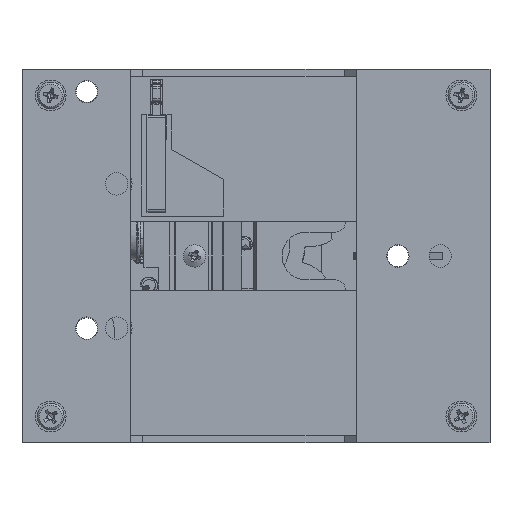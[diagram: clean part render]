
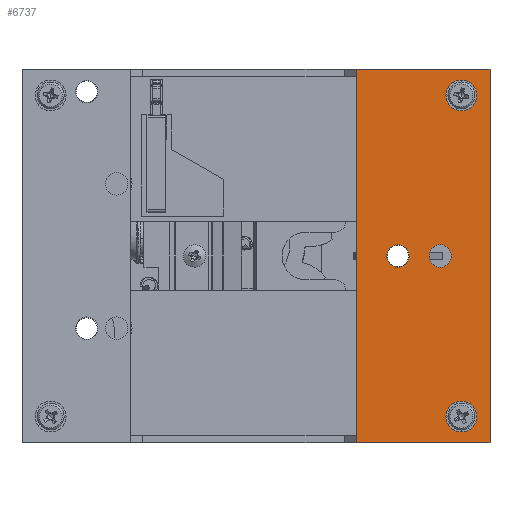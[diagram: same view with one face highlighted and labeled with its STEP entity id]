
A CAD part, front view. The second image highlights one B-rep face of the part: STEP entity #6737.
In plain terms, the highlighted planar face has unit normal (0, -1, 0).
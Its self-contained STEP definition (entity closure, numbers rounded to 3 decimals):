
#753 = FACE_BOUND ( 'NONE', #38181, .T. ) ;
#754 = FACE_OUTER_BOUND ( 'NONE', #38189, .T. ) ;
#755 = FACE_BOUND ( 'NONE', #38196, .T. ) ;
#756 = FACE_BOUND ( 'NONE', #38177, .T. ) ;
#758 = FACE_BOUND ( 'NONE', #38183, .T. ) ;
#4372 = CARTESIAN_POINT ( 'NONE',  ( -47., -25.5, 37.5 ) ) ;
#4373 = DIRECTION ( 'NONE',  ( 1., 0., 0. ) ) ;
#4384 = CARTESIAN_POINT ( 'NONE',  ( 20.2, -25.5, 37.5 ) ) ;
#4385 = DIRECTION ( 'NONE',  ( 0., 0., 1. ) ) ;
#4410 = CARTESIAN_POINT ( 'NONE',  ( 47., -25.5, 37.5 ) ) ;
#4412 = DIRECTION ( 'NONE',  ( 0., 0., 1. ) ) ;
#4913 = CARTESIAN_POINT ( 'NONE',  ( 37., -25.5, 0. ) ) ;
#4914 = DIRECTION ( 'NONE',  ( 0., -1., 0. ) ) ;
#4915 = DIRECTION ( 'NONE',  ( 1., 0., 0. ) ) ;
#5411 = LINE ( 'NONE', #25400, #5414 ) ;
#5414 = VECTOR ( 'NONE', #25402, 1000. ) ;
#5430 = CIRCLE ( 'NONE', #16508, 3.1 ) ;
#5690 = LINE ( 'NONE', #4372, #5693 ) ;
#5693 = VECTOR ( 'NONE', #4373, 1000. ) ;
#5698 = LINE ( 'NONE', #4384, #5701 ) ;
#5701 = VECTOR ( 'NONE', #4385, 1000. ) ;
#5719 = LINE ( 'NONE', #4410, #5722 ) ;
#5722 = VECTOR ( 'NONE', #4412, 1000. ) ;
#5988 = CIRCLE ( 'NONE', #13791, 2.25 ) ;
#6737 = ADVANCED_FACE ( 'NONE', ( #754, #758, #755, #753, #756 ), #29451, .F. ) ;
#7006 = EDGE_CURVE ( 'NONE', #41226, #57351, #22958, .T. ) ;
#7809 = EDGE_CURVE ( 'NONE', #41068, #58007, #59677, .T. ) ;
#7835 = EDGE_CURVE ( 'NONE', #57078, #57160, #59717, .T. ) ;
#7863 = EDGE_CURVE ( 'NONE', #57029, #41470, #59763, .T. ) ;
#8597 = CARTESIAN_POINT ( 'NONE',  ( 26.25, -25.5, 0. ) ) ;
#8650 = CARTESIAN_POINT ( 'NONE',  ( 38.15, -25.5, -32.25 ) ) ;
#8712 = CARTESIAN_POINT ( 'NONE',  ( 44.35, -25.5, -32.25 ) ) ;
#8816 = CARTESIAN_POINT ( 'NONE',  ( 39.25, -25.5, 0. ) ) ;
#9126 = CARTESIAN_POINT ( 'NONE',  ( 44.35, -25.5, 32.25 ) ) ;
#13791 = AXIS2_PLACEMENT_3D ( 'NONE', #4913, #4914, #4915 ) ;
#15390 = CARTESIAN_POINT ( 'NONE',  ( 37., -25.5, 0. ) ) ;
#15391 = DIRECTION ( 'NONE',  ( 0., -1., 0. ) ) ;
#15393 = DIRECTION ( 'NONE',  ( 1., 0., 0. ) ) ;
#16508 = AXIS2_PLACEMENT_3D ( 'NONE', #25472, #25474, #25477 ) ;
#16703 = AXIS2_PLACEMENT_3D ( 'NONE', #43560, #43561, #43562 ) ;
#16711 = AXIS2_PLACEMENT_3D ( 'NONE', #23979, #23980, #23981 ) ;
#19280 = CARTESIAN_POINT ( 'NONE',  ( 38.15, -25.5, 32.25 ) ) ;
#19356 = CARTESIAN_POINT ( 'NONE',  ( 34.75, -25.5, 0. ) ) ;
#19472 = CARTESIAN_POINT ( 'NONE',  ( 30.75, -25.5, 0. ) ) ;
#19754 = CARTESIAN_POINT ( 'NONE',  ( 20.2, -25.5, -37.5 ) ) ;
#19812 = CARTESIAN_POINT ( 'NONE',  ( 20.2, -25.5, 37.5 ) ) ;
#19875 = CARTESIAN_POINT ( 'NONE',  ( 47., -25.5, 37.5 ) ) ;
#20450 = CARTESIAN_POINT ( 'NONE',  ( 47., -25.5, -37.5 ) ) ;
#22958 = CIRCLE ( 'NONE', #31898, 2.25 ) ;
#23979 = CARTESIAN_POINT ( 'NONE',  ( 28.5, -25.5, 0. ) ) ;
#23980 = DIRECTION ( 'NONE',  ( 0., -1., 0. ) ) ;
#23981 = DIRECTION ( 'NONE',  ( 1., 0., 0. ) ) ;
#25400 = CARTESIAN_POINT ( 'NONE',  ( 20.2, -25.5, -37.5 ) ) ;
#25402 = DIRECTION ( 'NONE',  ( -1., 0., 0. ) ) ;
#25472 = CARTESIAN_POINT ( 'NONE',  ( 41.25, -25.5, 32.25 ) ) ;
#25474 = DIRECTION ( 'NONE',  ( 0., -1., 0. ) ) ;
#25477 = DIRECTION ( 'NONE',  ( 1., 0., 0. ) ) ;
#29440 = DIRECTION ( 'NONE',  ( -1., 0., 0. ) ) ;
#29441 = DIRECTION ( 'NONE',  ( 0., 1., 0. ) ) ;
#29442 = CARTESIAN_POINT ( 'NONE',  ( 20.2, -25.5, 37.5 ) ) ;
#29451 = PLANE ( 'NONE',  #32663 ) ;
#31416 = AXIS2_PLACEMENT_3D ( 'NONE', #31969, #31971, #31973 ) ;
#31428 = AXIS2_PLACEMENT_3D ( 'NONE', #31581, #31582, #31583 ) ;
#31446 = AXIS2_PLACEMENT_3D ( 'NONE', #31485, #31487, #31489 ) ;
#31485 = CARTESIAN_POINT ( 'NONE',  ( 41.25, -25.5, 32.25 ) ) ;
#31487 = DIRECTION ( 'NONE',  ( 0., -1., 0. ) ) ;
#31489 = DIRECTION ( 'NONE',  ( 1., 0., 0. ) ) ;
#31581 = CARTESIAN_POINT ( 'NONE',  ( 41.25, -25.5, -32.25 ) ) ;
#31582 = DIRECTION ( 'NONE',  ( 0., -1., 0. ) ) ;
#31583 = DIRECTION ( 'NONE',  ( 1., 0., 0. ) ) ;
#31898 = AXIS2_PLACEMENT_3D ( 'NONE', #15390, #15391, #15393 ) ;
#31969 = CARTESIAN_POINT ( 'NONE',  ( 28.5, -25.5, 0. ) ) ;
#31971 = DIRECTION ( 'NONE',  ( 0., -1., 0. ) ) ;
#31973 = DIRECTION ( 'NONE',  ( 1., 0., 0. ) ) ;
#32663 = AXIS2_PLACEMENT_3D ( 'NONE', #29442, #29441, #29440 ) ;
#34949 = EDGE_CURVE ( 'NONE', #57160, #57078, #52000, .T. ) ;
#34957 = EDGE_CURVE ( 'NONE', #41470, #57029, #52011, .T. ) ;
#35381 = EDGE_CURVE ( 'NONE', #43232, #42113, #5411, .T. ) ;
#35422 = EDGE_CURVE ( 'NONE', #58007, #41068, #5430, .T. ) ;
#36090 = EDGE_CURVE ( 'NONE', #42261, #42403, #5690, .T. ) ;
#36100 = EDGE_CURVE ( 'NONE', #42113, #42261, #5698, .T. ) ;
#36144 = EDGE_CURVE ( 'NONE', #43232, #42403, #5719, .T. ) ;
#36502 = EDGE_CURVE ( 'NONE', #57351, #41226, #5988, .T. ) ;
#38177 = EDGE_LOOP ( 'NONE', ( #46739, #46717 ) ) ;
#38181 = EDGE_LOOP ( 'NONE', ( #46715, #52108 ) ) ;
#38183 = EDGE_LOOP ( 'NONE', ( #52124, #52132 ) ) ;
#38189 = EDGE_LOOP ( 'NONE', ( #52122, #52120, #52126, #52125 ) ) ;
#38196 = EDGE_LOOP ( 'NONE', ( #52130, #52118 ) ) ;
#41068 = VERTEX_POINT ( 'NONE', #19280 ) ;
#41226 = VERTEX_POINT ( 'NONE', #19356 ) ;
#41470 = VERTEX_POINT ( 'NONE', #19472 ) ;
#42113 = VERTEX_POINT ( 'NONE', #19754 ) ;
#42261 = VERTEX_POINT ( 'NONE', #19812 ) ;
#42403 = VERTEX_POINT ( 'NONE', #19875 ) ;
#43232 = VERTEX_POINT ( 'NONE', #20450 ) ;
#43560 = CARTESIAN_POINT ( 'NONE',  ( 41.25, -25.5, -32.25 ) ) ;
#43561 = DIRECTION ( 'NONE',  ( 0., -1., 0. ) ) ;
#43562 = DIRECTION ( 'NONE',  ( 1., 0., 0. ) ) ;
#46715 = ORIENTED_EDGE ( 'NONE', *, *, #35422, .F. ) ;
#46717 = ORIENTED_EDGE ( 'NONE', *, *, #7835, .F. ) ;
#46739 = ORIENTED_EDGE ( 'NONE', *, *, #34949, .F. ) ;
#52000 = CIRCLE ( 'NONE', #16703, 3.1 ) ;
#52011 = CIRCLE ( 'NONE', #16711, 2.25 ) ;
#52108 = ORIENTED_EDGE ( 'NONE', *, *, #7809, .F. ) ;
#52118 = ORIENTED_EDGE ( 'NONE', *, *, #7006, .F. ) ;
#52120 = ORIENTED_EDGE ( 'NONE', *, *, #36090, .F. ) ;
#52122 = ORIENTED_EDGE ( 'NONE', *, *, #36144, .T. ) ;
#52124 = ORIENTED_EDGE ( 'NONE', *, *, #34957, .F. ) ;
#52125 = ORIENTED_EDGE ( 'NONE', *, *, #35381, .F. ) ;
#52126 = ORIENTED_EDGE ( 'NONE', *, *, #36100, .F. ) ;
#52130 = ORIENTED_EDGE ( 'NONE', *, *, #36502, .F. ) ;
#52132 = ORIENTED_EDGE ( 'NONE', *, *, #7863, .F. ) ;
#57029 = VERTEX_POINT ( 'NONE', #8597 ) ;
#57078 = VERTEX_POINT ( 'NONE', #8650 ) ;
#57160 = VERTEX_POINT ( 'NONE', #8712 ) ;
#57351 = VERTEX_POINT ( 'NONE', #8816 ) ;
#58007 = VERTEX_POINT ( 'NONE', #9126 ) ;
#59677 = CIRCLE ( 'NONE', #31446, 3.1 ) ;
#59717 = CIRCLE ( 'NONE', #31428, 3.1 ) ;
#59763 = CIRCLE ( 'NONE', #31416, 2.25 ) ;
